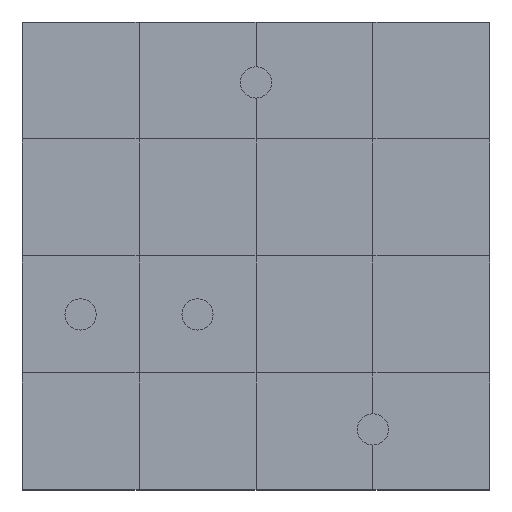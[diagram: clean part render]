
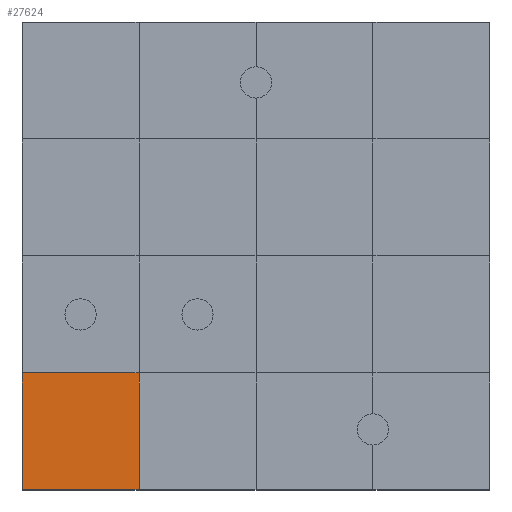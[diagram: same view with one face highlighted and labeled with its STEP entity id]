
A CAD part, top view. The second image highlights one B-rep face of the part: STEP entity #27624.
In plain terms, the highlighted planar face has unit normal (0, 0, 1).
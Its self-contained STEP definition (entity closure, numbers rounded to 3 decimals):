
#27435 = VERTEX_POINT('',#27436);
#27436 = CARTESIAN_POINT('',(0.,0.,1.5));
#27443 = PLANE('',#27444);
#27444 = AXIS2_PLACEMENT_3D('',#27445,#27446,#27447);
#27445 = CARTESIAN_POINT('',(0.,0.,0.));
#27446 = DIRECTION('',(1.,0.,-0.));
#27447 = DIRECTION('',(0.,0.,1.));
#27455 = PLANE('',#27456);
#27456 = AXIS2_PLACEMENT_3D('',#27457,#27458,#27459);
#27457 = CARTESIAN_POINT('',(0.,0.,0.));
#27458 = DIRECTION('',(-0.,1.,0.));
#27459 = DIRECTION('',(0.,0.,1.));
#27496 = VERTEX_POINT('',#27497);
#27497 = CARTESIAN_POINT('',(0.,3.,1.5));
#27523 = EDGE_CURVE('',#27435,#27496,#27524,.T.);
#27524 = SURFACE_CURVE('',#27525,(#27529,#27536),.PCURVE_S1.);
#27525 = LINE('',#27526,#27527);
#27526 = CARTESIAN_POINT('',(0.,0.,1.5));
#27527 = VECTOR('',#27528,1.);
#27528 = DIRECTION('',(-0.,1.,0.));
#27529 = PCURVE('',#27443,#27530);
#27530 = DEFINITIONAL_REPRESENTATION('',(#27531),#27535);
#27531 = LINE('',#27532,#27533);
#27532 = CARTESIAN_POINT('',(1.5,0.));
#27533 = VECTOR('',#27534,1.);
#27534 = DIRECTION('',(0.,-1.));
#27535 = ( GEOMETRIC_REPRESENTATION_CONTEXT(2) 
PARAMETRIC_REPRESENTATION_CONTEXT() REPRESENTATION_CONTEXT('2D SPACE',''
  ) );
#27536 = PCURVE('',#27537,#27542);
#27537 = PLANE('',#27538);
#27538 = AXIS2_PLACEMENT_3D('',#27539,#27540,#27541);
#27539 = CARTESIAN_POINT('',(0.,0.,1.5));
#27540 = DIRECTION('',(0.,0.,1.));
#27541 = DIRECTION('',(1.,0.,-0.));
#27542 = DEFINITIONAL_REPRESENTATION('',(#27543),#27547);
#27543 = LINE('',#27544,#27545);
#27544 = CARTESIAN_POINT('',(0.,0.));
#27545 = VECTOR('',#27546,1.);
#27546 = DIRECTION('',(0.,1.));
#27547 = ( GEOMETRIC_REPRESENTATION_CONTEXT(2) 
PARAMETRIC_REPRESENTATION_CONTEXT() REPRESENTATION_CONTEXT('2D SPACE',''
  ) );
#27576 = EDGE_CURVE('',#27435,#27577,#27579,.T.);
#27577 = VERTEX_POINT('',#27578);
#27578 = CARTESIAN_POINT('',(3.,0.,1.5));
#27579 = SURFACE_CURVE('',#27580,(#27584,#27591),.PCURVE_S1.);
#27580 = LINE('',#27581,#27582);
#27581 = CARTESIAN_POINT('',(0.,0.,1.5));
#27582 = VECTOR('',#27583,1.);
#27583 = DIRECTION('',(1.,0.,-0.));
#27584 = PCURVE('',#27455,#27585);
#27585 = DEFINITIONAL_REPRESENTATION('',(#27586),#27590);
#27586 = LINE('',#27587,#27588);
#27587 = CARTESIAN_POINT('',(1.5,0.));
#27588 = VECTOR('',#27589,1.);
#27589 = DIRECTION('',(0.,1.));
#27590 = ( GEOMETRIC_REPRESENTATION_CONTEXT(2) 
PARAMETRIC_REPRESENTATION_CONTEXT() REPRESENTATION_CONTEXT('2D SPACE',''
  ) );
#27591 = PCURVE('',#27537,#27592);
#27592 = DEFINITIONAL_REPRESENTATION('',(#27593),#27597);
#27593 = LINE('',#27594,#27595);
#27594 = CARTESIAN_POINT('',(0.,0.));
#27595 = VECTOR('',#27596,1.);
#27596 = DIRECTION('',(1.,0.));
#27597 = ( GEOMETRIC_REPRESENTATION_CONTEXT(2) 
PARAMETRIC_REPRESENTATION_CONTEXT() REPRESENTATION_CONTEXT('2D SPACE',''
  ) );
#27624 = ADVANCED_FACE('',(#27625),#27537,.T.);
#27625 = FACE_BOUND('',#27626,.T.);
#27626 = EDGE_LOOP('',(#27627,#27628,#27629,#27657));
#27627 = ORIENTED_EDGE('',*,*,#27523,.F.);
#27628 = ORIENTED_EDGE('',*,*,#27576,.T.);
#27629 = ORIENTED_EDGE('',*,*,#27630,.T.);
#27630 = EDGE_CURVE('',#27577,#27631,#27633,.T.);
#27631 = VERTEX_POINT('',#27632);
#27632 = CARTESIAN_POINT('',(3.,3.,1.5));
#27633 = SURFACE_CURVE('',#27634,(#27638,#27645),.PCURVE_S1.);
#27634 = LINE('',#27635,#27636);
#27635 = CARTESIAN_POINT('',(3.,0.,1.5));
#27636 = VECTOR('',#27637,1.);
#27637 = DIRECTION('',(-0.,1.,0.));
#27638 = PCURVE('',#27537,#27639);
#27639 = DEFINITIONAL_REPRESENTATION('',(#27640),#27644);
#27640 = LINE('',#27641,#27642);
#27641 = CARTESIAN_POINT('',(3.,0.));
#27642 = VECTOR('',#27643,1.);
#27643 = DIRECTION('',(0.,1.));
#27644 = ( GEOMETRIC_REPRESENTATION_CONTEXT(2) 
PARAMETRIC_REPRESENTATION_CONTEXT() REPRESENTATION_CONTEXT('2D SPACE',''
  ) );
#27645 = PCURVE('',#27646,#27651);
#27646 = PLANE('',#27647);
#27647 = AXIS2_PLACEMENT_3D('',#27648,#27649,#27650);
#27648 = CARTESIAN_POINT('',(3.,0.,1.5));
#27649 = DIRECTION('',(0.,0.,1.));
#27650 = DIRECTION('',(1.,0.,-0.));
#27651 = DEFINITIONAL_REPRESENTATION('',(#27652),#27656);
#27652 = LINE('',#27653,#27654);
#27653 = CARTESIAN_POINT('',(0.,0.));
#27654 = VECTOR('',#27655,1.);
#27655 = DIRECTION('',(0.,1.));
#27656 = ( GEOMETRIC_REPRESENTATION_CONTEXT(2) 
PARAMETRIC_REPRESENTATION_CONTEXT() REPRESENTATION_CONTEXT('2D SPACE',''
  ) );
#27657 = ORIENTED_EDGE('',*,*,#27658,.F.);
#27658 = EDGE_CURVE('',#27496,#27631,#27659,.T.);
#27659 = SURFACE_CURVE('',#27660,(#27664,#27671),.PCURVE_S1.);
#27660 = LINE('',#27661,#27662);
#27661 = CARTESIAN_POINT('',(0.,3.,1.5));
#27662 = VECTOR('',#27663,1.);
#27663 = DIRECTION('',(1.,0.,-0.));
#27664 = PCURVE('',#27537,#27665);
#27665 = DEFINITIONAL_REPRESENTATION('',(#27666),#27670);
#27666 = LINE('',#27667,#27668);
#27667 = CARTESIAN_POINT('',(0.,3.));
#27668 = VECTOR('',#27669,1.);
#27669 = DIRECTION('',(1.,0.));
#27670 = ( GEOMETRIC_REPRESENTATION_CONTEXT(2) 
PARAMETRIC_REPRESENTATION_CONTEXT() REPRESENTATION_CONTEXT('2D SPACE',''
  ) );
#27671 = PCURVE('',#27672,#27677);
#27672 = PLANE('',#27673);
#27673 = AXIS2_PLACEMENT_3D('',#27674,#27675,#27676);
#27674 = CARTESIAN_POINT('',(0.,3.,1.5));
#27675 = DIRECTION('',(0.,0.,1.));
#27676 = DIRECTION('',(1.,0.,-0.));
#27677 = DEFINITIONAL_REPRESENTATION('',(#27678),#27682);
#27678 = LINE('',#27679,#27680);
#27679 = CARTESIAN_POINT('',(0.,0.));
#27680 = VECTOR('',#27681,1.);
#27681 = DIRECTION('',(1.,0.));
#27682 = ( GEOMETRIC_REPRESENTATION_CONTEXT(2) 
PARAMETRIC_REPRESENTATION_CONTEXT() REPRESENTATION_CONTEXT('2D SPACE',''
  ) );
